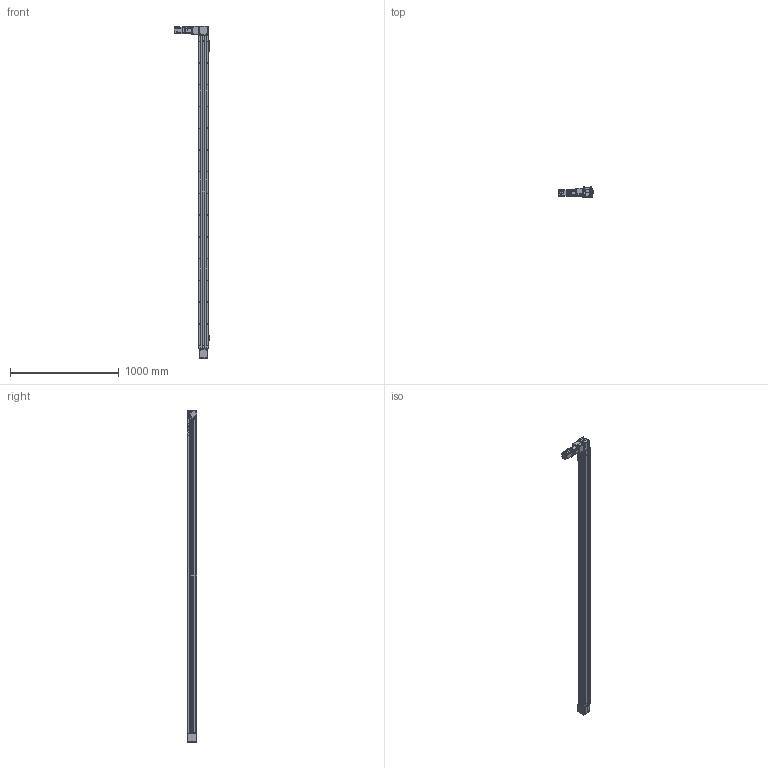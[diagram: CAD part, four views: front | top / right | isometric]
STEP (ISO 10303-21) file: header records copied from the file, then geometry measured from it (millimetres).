
FILE_DESCRIPTION(/* description */ ('MANUFACTURE'),/* implementation_level */ '2;1');
FILE_NAME(/* name */ '\\192.168.0.160\disk1\HAN SHIN Master\B-설계부문\C-표준\B-2024년\BC02-표준도면\+로봇 개선표준도면\홈페이지 표준 도면\홈페이지 최종 작업 폴더\3D\HSB\HSB75\SL\HSB75-SL2G-N-2700-R.stp',/* time_stamp */ '2025-04-29T18:09:00+09:00',/* author */ ('user'),/* organization */ (''),/* preprocessor_version */ 'ST-DEVELOPER v18.1',/* originating_system */ 'Autodesk Inventor 2022',/* authorisation */ 'LIP');
FILE_SCHEMA (('CONFIG_CONTROL_DESIGN'));
Products named in the file (36): HSB75-SL; HSB75 BASE; HSB75 TABLE; HSB75 FRONT HOUSING (Connecting); HSB160 SHAFT-1; C-E6304ZZ; HSB75 FRONT COVER; UPCOVER; HS75 SIDE COVER; HSB75 REAR HOUSING; HSB75 REAR PULLEY; HSB55 REAR SHAFT; HSB55 TENSION PLATE; 6002ZZ; 6002ZZ Outer ring; 6002ZZ Shield1; 6002ZZ Inner ring; 6002ZZ Ball; 6002ZZ Shield2; HS75 SENSOR DOG-1; NIPPLE CAP(신규); hsr_ftht_A-M6F_grease_nipple_joint; HG90STOPPER - 27L; M4-6(렌치볼트); HSB75 END COVER; SDWA-39C; HSB160 BEARING OVER; HSB55 MOTOR BKT 01; HSB55 MOTOR BKT 02; PGX62-H-1_3; COUPLING COVER; hg-kr23_; HSB55 ACRYL COVER; HSB75 ACRYL COVER-END; SENSOR BRK(EE-SX674A); EE_SX674A
Assembly tree (61 placements, depth 3):
  HSB75-SL
    HSB75 BASE
    HSB75 TABLE
    HSB75 FRONT HOUSING (Connecting)
    HSB160 SHAFT-1
    HSB75 FRONT COVER  x2
    C-E6304ZZ  x2
    UPCOVER
    HS75 SIDE COVER  x2
    HSB75 REAR HOUSING
    HSB75 REAR PULLEY
    HSB55 REAR SHAFT
    HSB55 TENSION PLATE  x2
    6002ZZ  x2
      6002ZZ Outer ring
      6002ZZ Shield1
      6002ZZ Inner ring
      6002ZZ Ball
      6002ZZ Shield2
    HS75 SENSOR DOG-1
    SENSOR BRK(EE-SX674A)  x3
    EE_SX674A  x3
    NIPPLE CAP(신규)  x2
    hsr_ftht_A-M6F_grease_nipple_joint  x2
    HG90STOPPER - 27L  x2
    M4-6(렌치볼트)  x2
    HSB75 END COVER
    SDWA-39C
    HSB160 BEARING OVER
    HSB55 MOTOR BKT 01
    HSB55 MOTOR BKT 02
    PGX62-H-1_3
    COUPLING COVER
    HSB55 ACRYL COVER  x2
    hg-kr23_
    HSB75 ACRYL COVER-END
Bounding box: 322.6 x 89 x 3054 mm (x, y, z)
Volume: 7882505.6 mm3; surface area: 3031742.9 mm2
Topology: 93 solids, 125 shells, 4347 faces, 11722 edges, 7650 vertices
Faces by surface type: plane 2671, cylinder 1134, cone 368, torus 113, sphere 42, bspline 19
Full cylindrical faces by diameter (mm): 2 x12, 2.013 x4, 2.459 x40, 3 x20, 3.242 x32, 3.3 x15, 3.5 x18, 4 x37, 4.134 x67, 4.2 x12, 4.343 x2, 4.4 x4, 4.5 x29, 4.917 x34, 5 x31, 5.5 x40, 5.6 x10, 5.8 x4, 5.9 x8, 6 x6, 6.5 x4, 7 x29, 7.4 x2, 7.9 x10, 8 x12, 8.5 x4, 9 x12, 9.5 x24, 12 x2, 14 x1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
Entity records: 120045 total; most frequent: CARTESIAN_POINT 24700, DIRECTION 19897, ORIENTED_EDGE 19298, EDGE_CURVE 9649, AXIS2_PLACEMENT_3D 6952, VERTEX_POINT 6362, LINE 5993, VECTOR 5993
